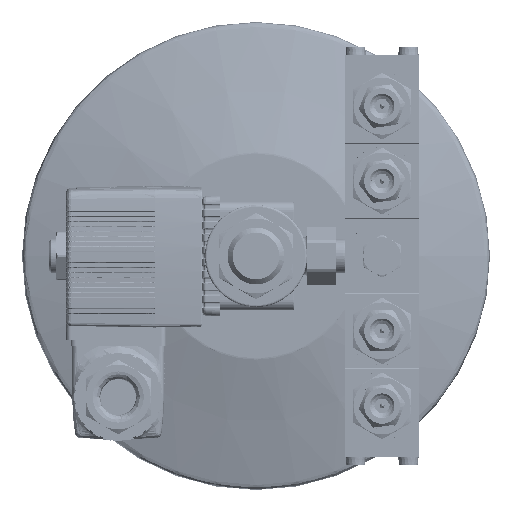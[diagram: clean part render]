
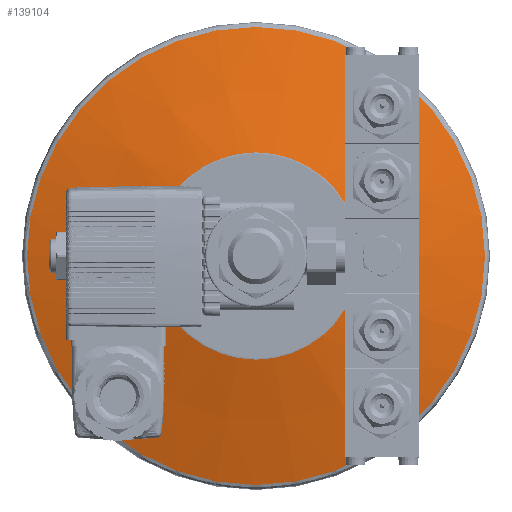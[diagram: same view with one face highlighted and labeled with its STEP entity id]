
A CAD part, left-side view. The second image highlights one B-rep face of the part: STEP entity #139104.
In plain terms, the highlighted conical face has half-angle 75.534 degrees and reference radius 67.225 mm.
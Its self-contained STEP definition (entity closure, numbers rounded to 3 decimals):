
#1732 = EDGE_LOOP ( 'NONE', ( #15778 ) ) ;
#11282 = AXIS2_PLACEMENT_3D ( 'NONE', #186175, #285397, #304949 ) ;
#15778 = ORIENTED_EDGE ( 'NONE', *, *, #49192, .T. ) ;
#23727 = CARTESIAN_POINT ( 'NONE',  ( 73.454, 0., 0. ) ) ;
#49192 = EDGE_CURVE ( 'NONE', #301588, #301588, #190221, .T. ) ;
#63401 = FACE_BOUND ( 'NONE', #1732, .T. ) ;
#76034 = AXIS2_PLACEMENT_3D ( 'NONE', #23727, #297038, #106615 ) ;
#86203 = FACE_OUTER_BOUND ( 'NONE', #132508, .T. ) ;
#87824 = CARTESIAN_POINT ( 'NONE',  ( 82.948, 0., 0. ) ) ;
#106615 = DIRECTION ( 'NONE',  ( 0., -1., 0. ) ) ;
#132508 = EDGE_LOOP ( 'NONE', ( #196669 ) ) ;
#139104 = ADVANCED_FACE ( 'NONE', ( #86203, #63401 ), #298730, .T. ) ;
#185418 = DIRECTION ( 'NONE',  ( 1., 0., 0. ) ) ;
#186175 = CARTESIAN_POINT ( 'NONE',  ( 82.948, 0., 0. ) ) ;
#190221 = CIRCLE ( 'NONE', #76034, 30.425 ) ;
#196669 = ORIENTED_EDGE ( 'NONE', *, *, #225059, .T. ) ;
#200065 = AXIS2_PLACEMENT_3D ( 'NONE', #87824, #185418, #284605 ) ;
#208641 = CIRCLE ( 'NONE', #11282, 67.225 ) ;
#225059 = EDGE_CURVE ( 'NONE', #304376, #304376, #208641, .T. ) ;
#248014 = CARTESIAN_POINT ( 'NONE',  ( 73.454, -30.425, 0. ) ) ;
#284605 = DIRECTION ( 'NONE',  ( 0., 0., -1. ) ) ;
#285397 = DIRECTION ( 'NONE',  ( -1., 0., 0. ) ) ;
#286410 = CARTESIAN_POINT ( 'NONE',  ( 82.948, -67.225, 0. ) ) ;
#297038 = DIRECTION ( 'NONE',  ( 1., 0., 0. ) ) ;
#298730 = CONICAL_SURFACE ( 'NONE', #200065, 67.225, 1.318 ) ;
#301588 = VERTEX_POINT ( 'NONE', #248014 ) ;
#304376 = VERTEX_POINT ( 'NONE', #286410 ) ;
#304949 = DIRECTION ( 'NONE',  ( 0., -1., 0. ) ) ;
